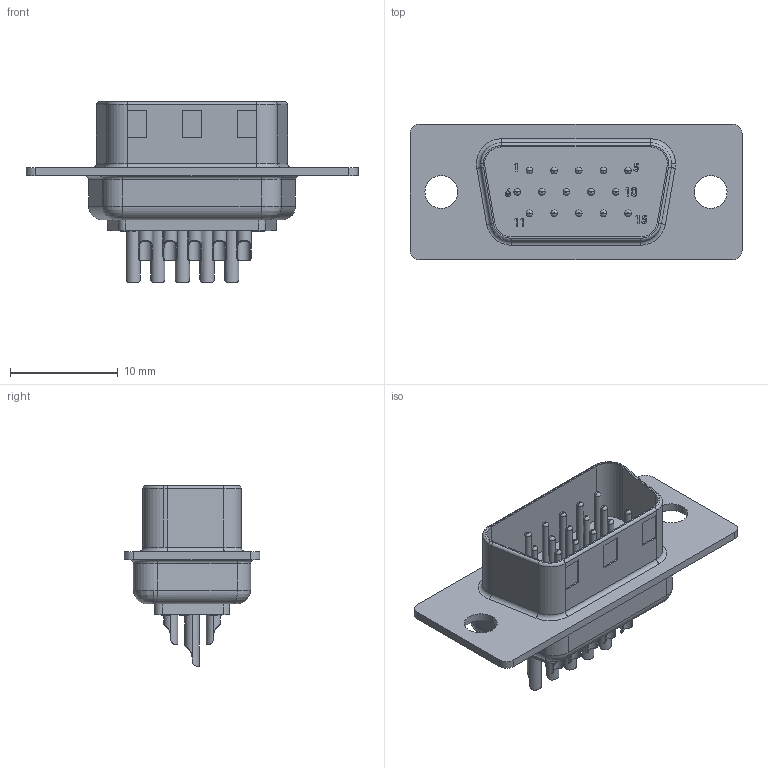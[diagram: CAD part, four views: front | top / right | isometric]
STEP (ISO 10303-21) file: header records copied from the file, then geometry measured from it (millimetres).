
FILE_DESCRIPTION(('FreeCAD Model'),'2;1');
FILE_NAME('C:/Users/Metaltex-99/Desktop/DBAM-15.stp', '2020-12-23T08:54:19',('Engenharia Metaltex'),('Metaltex'), 'Open CASCADE STEP processor 7.3','FreeCAD','Unknown');
FILE_SCHEMA(('AUTOMOTIVE_DESIGN { 1 0 10303 214 1 1 1 1 }'));
Products named in the file (1): DBAM-15
Bounding box: 30.81 x 12.6 x 16.74 mm (x, y, z)
Volume: 1287.7 mm3; surface area: 2133 mm2
Topology: 1 solids, 1 shells, 567 faces, 1385 edges, 882 vertices
Faces by surface type: plane 262, cylinder 187, bspline 68, revolution 35, torus 15
Entity records: 46630 total; most frequent: CARTESIAN_POINT 19835, DIRECTION 4555, LINE 2797, VECTOR 2797, ORIENTED_EDGE 2770, PCURVE 2770, DEFINITIONAL_REPRESENTATION 2770, EDGE_CURVE 1385
